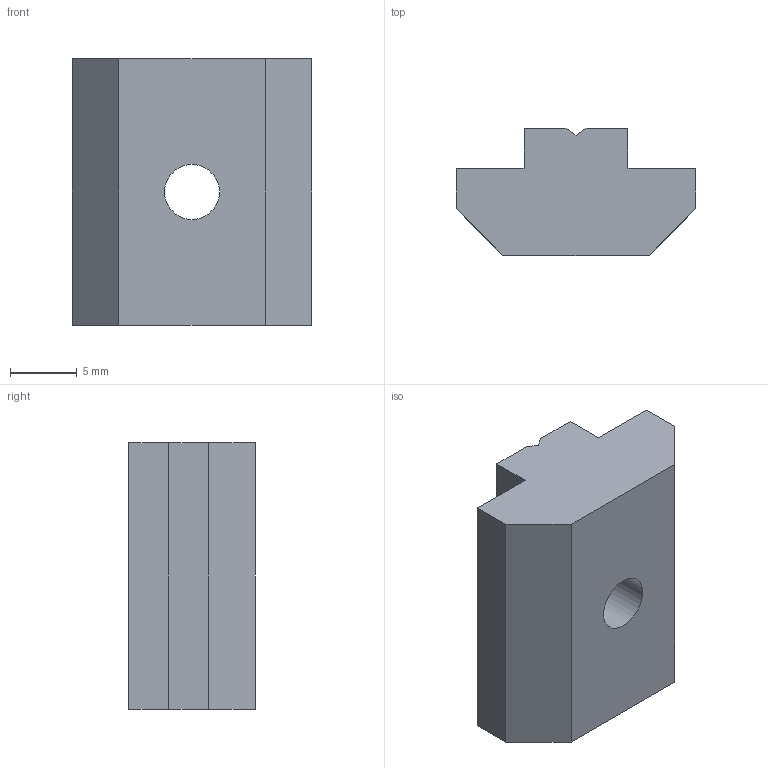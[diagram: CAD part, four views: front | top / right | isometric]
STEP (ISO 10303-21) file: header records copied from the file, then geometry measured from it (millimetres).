
FILE_DESCRIPTION((''),'2;1');
FILE_NAME('E:\catalogue and flyer\Profile catalogue 2015\Accessories JE info\Accessories-JE step file 31MAr16\JE-SB5-8_4040.stp','2016-04-07T11:33:49',('h029'),(''),'Autodesk Inventor 11','Autodesk Inventor 11','');
FILE_SCHEMA(('AUTOMOTIVE_DESIGN { 1 0 10303 214 1 1 1 1 }'));
Length unit declared in the file: millimetre
Products named in the file (1): JE-SB5-8
Bounding box: 18 x 9.5 x 20 mm (x, y, z)
Volume: 2428 mm3; surface area: 1370.9 mm2
Topology: 1 solids, 1 shells, 20 faces, 53 edges, 34 vertices
Faces by surface type: plane 17, cone 2, bspline 1
Entity records: 640 total; most frequent: CARTESIAN_POINT 122, ORIENTED_EDGE 102, DIRECTION 100, EDGE_CURVE 51, VECTOR 42, LINE 42, VERTEX_POINT 33, AXIS2_PLACEMENT_3D 29
